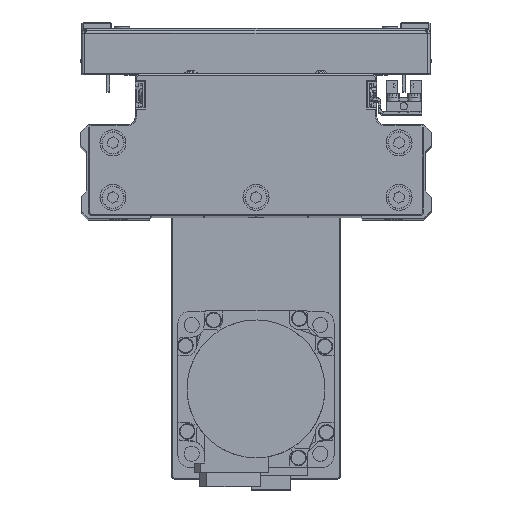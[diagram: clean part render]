
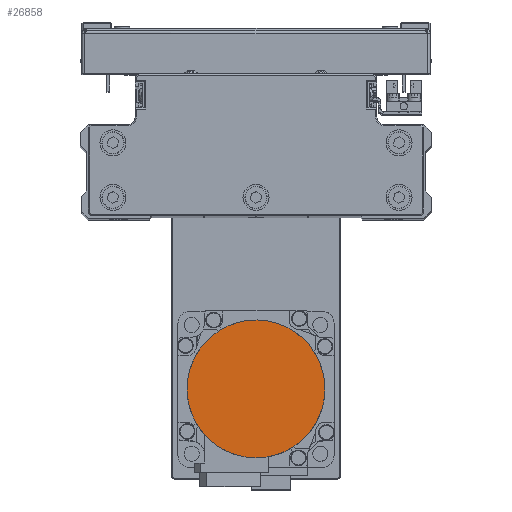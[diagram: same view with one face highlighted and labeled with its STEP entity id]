
A CAD part, top view. The second image highlights one B-rep face of the part: STEP entity #26858.
In plain terms, the highlighted planar face has unit normal (0, 0, 1) as drawn and (0, 0, -1) by its records, which use the part's own axes.
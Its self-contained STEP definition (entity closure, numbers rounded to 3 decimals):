
#95 = AXIS2_PLACEMENT_3D ( 'NONE', #12694, #26082, #39500 ) ;
#412 = VERTEX_POINT ( 'NONE', #4403 ) ;
#682 = CARTESIAN_POINT ( 'NONE',  ( 21.07, 16.165, -109.7 ) ) ;
#909 = CARTESIAN_POINT ( 'NONE',  ( -8.539, 25.147, -109.7 ) ) ;
#1716 = CARTESIAN_POINT ( 'NONE',  ( -26.5, 0., -109.7 ) ) ;
#2832 = CARTESIAN_POINT ( 'NONE',  ( -22.998, -13.28, -109.7 ) ) ;
#3060 = CARTESIAN_POINT ( 'NONE',  ( 6.871, -25.652, -109.7 ) ) ;
#3272 = CARTESIAN_POINT ( 'NONE',  ( 26.5, -1.734, -109.7 ) ) ;
#3967 = CARTESIAN_POINT ( 'NONE',  ( 25.147, 8.539, -109.7 ) ) ;
#4180 = CARTESIAN_POINT ( 'NONE',  ( -1.734, 26.5, -109.7 ) ) ;
#4403 = CARTESIAN_POINT ( 'NONE',  ( -26.5, 0., -109.7 ) ) ;
#4987 = CARTESIAN_POINT ( 'NONE',  ( -25.652, 6.871, -109.7 ) ) ;
#5675 = EDGE_CURVE ( 'NONE', #412, #42727, #29798, .T. ) ;
#6117 = CARTESIAN_POINT ( 'NONE',  ( -25.652, -6.871, -109.7 ) ) ;
#6335 = CARTESIAN_POINT ( 'NONE',  ( -1.734, -26.5, -109.7 ) ) ;
#6563 = CARTESIAN_POINT ( 'NONE',  ( 25.147, -8.539, -109.7 ) ) ;
#7258 = CARTESIAN_POINT ( 'NONE',  ( 26.5, 1.734, -109.7 ) ) ;
#7464 = CARTESIAN_POINT ( 'NONE',  ( 6.871, 25.652, -109.7 ) ) ;
#7683 = CARTESIAN_POINT ( 'NONE',  ( -22.998, 13.28, -109.7 ) ) ;
#9426 = CARTESIAN_POINT ( 'NONE',  ( -26.5, 0., -109.7 ) ) ;
#9626 = CARTESIAN_POINT ( 'NONE',  ( -8.539, -25.147, -109.7 ) ) ;
#9846 = CARTESIAN_POINT ( 'NONE',  ( 21.07, -16.165, -109.7 ) ) ;
#10771 = CARTESIAN_POINT ( 'NONE',  ( 13.28, 22.998, -109.7 ) ) ;
#10981 = CARTESIAN_POINT ( 'NONE',  ( -17.512, 19.965, -109.7 ) ) ;
#11588 = ORIENTED_EDGE ( 'NONE', *, *, #5675, .F. ) ;
#12694 = CARTESIAN_POINT ( 'NONE',  ( 0., 0., -109.7 ) ) ;
#12927 = CARTESIAN_POINT ( 'NONE',  ( -16.165, -21.07, -109.7 ) ) ;
#13144 = CARTESIAN_POINT ( 'NONE',  ( 16.165, -21.07, -109.7 ) ) ;
#13702 = ORIENTED_EDGE ( 'NONE', *, *, #16136, .F. ) ;
#14068 = CARTESIAN_POINT ( 'NONE',  ( 19.965, 17.512, -109.7 ) ) ;
#14297 = CARTESIAN_POINT ( 'NONE',  ( -11.744, 23.819, -109.7 ) ) ;
#16136 = EDGE_CURVE ( 'NONE', #42727, #412, #29342, .T. ) ;
#16215 = CARTESIAN_POINT ( 'NONE',  ( -21.07, -16.165, -109.7 ) ) ;
#16445 = CARTESIAN_POINT ( 'NONE',  ( 8.539, -25.147, -109.7 ) ) ;
#16655 = CARTESIAN_POINT ( 'NONE',  ( 26.5, 0., -109.7 ) ) ;
#17339 = CARTESIAN_POINT ( 'NONE',  ( 23.819, 11.744, -109.7 ) ) ;
#17555 = CARTESIAN_POINT ( 'NONE',  ( -3.469, 26.329, -109.7 ) ) ;
#18368 = CARTESIAN_POINT ( 'NONE',  ( -26.329, 3.469, -109.7 ) ) ;
#19492 = CARTESIAN_POINT ( 'NONE',  ( -25.147, -8.539, -109.7 ) ) ;
#19712 = CARTESIAN_POINT ( 'NONE',  ( 1.734, -26.5, -109.7 ) ) ;
#19939 = CARTESIAN_POINT ( 'NONE',  ( 25.652, -6.871, -109.7 ) ) ;
#20642 = CARTESIAN_POINT ( 'NONE',  ( 26.329, 3.469, -109.7 ) ) ;
#20848 = CARTESIAN_POINT ( 'NONE',  ( 3.469, 26.329, -109.7 ) ) ;
#21065 = CARTESIAN_POINT ( 'NONE',  ( -23.819, 11.744, -109.7 ) ) ;
#22788 = CARTESIAN_POINT ( 'NONE',  ( -26.5, -1.734, -109.7 ) ) ;
#22992 = CARTESIAN_POINT ( 'NONE',  ( -6.871, -25.652, -109.7 ) ) ;
#23216 = CARTESIAN_POINT ( 'NONE',  ( 22.998, -13.28, -109.7 ) ) ;
#24145 = CARTESIAN_POINT ( 'NONE',  ( 11.744, 23.819, -109.7 ) ) ;
#24353 = CARTESIAN_POINT ( 'NONE',  ( -19.965, 17.512, -109.7 ) ) ;
#26082 = DIRECTION ( 'NONE',  ( 0., 0., 1. ) ) ;
#26307 = CARTESIAN_POINT ( 'NONE',  ( -13.28, -22.998, -109.7 ) ) ;
#26511 = CARTESIAN_POINT ( 'NONE',  ( 17.512, -19.965, -109.7 ) ) ;
#26858 = ADVANCED_FACE ( 'NONE', ( #29361 ), #42771, .F. ) ;
#27437 = CARTESIAN_POINT ( 'NONE',  ( 17.512, 19.965, -109.7 ) ) ;
#27661 = CARTESIAN_POINT ( 'NONE',  ( -13.28, 22.998, -109.7 ) ) ;
#29342 = B_SPLINE_CURVE_WITH_KNOTS ( 'NONE', 3,
 ( #37326, #7258, #20642, #34028, #3967, #17339, #30728, #682, #14068, #27437, #40857, #10771, #24145, #37545, #7464, #20848, #34240, #4180, #17555, #30954, #909, #14297, #27661, #41069, #10981, #24353, #37760, #7683, #21065, #35051, #4987, #18368, #31768, #1716 ),
 .UNSPECIFIED., .F., .F.,
 ( 4, 2, 2, 2, 2, 2, 2, 2, 2, 2, 2, 2, 2, 2, 2, 2, 4 ),
 ( 0., 0.062, 0.125, 0.187, 0.25, 0.312, 0.375, 0.437, 0.5, 0.562, 0.625, 0.687, 0.75, 0.813, 0.875, 0.938, 1. ),
 .UNSPECIFIED. ) ;
#29361 = FACE_OUTER_BOUND ( 'NONE', #39979, .T. ) ;
#29600 = CARTESIAN_POINT ( 'NONE',  ( -19.965, -17.512, -109.7 ) ) ;
#29798 = B_SPLINE_CURVE_WITH_KNOTS ( 'NONE', 3,
 ( #9426, #22788, #36188, #6117, #19492, #32889, #2832, #16215, #29600, #43009, #12927, #26307, #39722, #9626, #22992, #36405, #6335, #19712, #33112, #3060, #16445, #29819, #43222, #13144, #26511, #39937, #9846, #23216, #36634, #6563, #19939, #33330, #3272, #16655 ),
 .UNSPECIFIED., .F., .F.,
 ( 4, 2, 2, 2, 2, 2, 2, 2, 2, 2, 2, 2, 2, 2, 2, 2, 4 ),
 ( 0., 0.063, 0.125, 0.188, 0.25, 0.312, 0.375, 0.437, 0.5, 0.562, 0.625, 0.687, 0.75, 0.813, 0.875, 0.938, 1. ),
 .UNSPECIFIED. ) ;
#29819 = CARTESIAN_POINT ( 'NONE',  ( 11.744, -23.819, -109.7 ) ) ;
#30728 = CARTESIAN_POINT ( 'NONE',  ( 22.998, 13.28, -109.7 ) ) ;
#30954 = CARTESIAN_POINT ( 'NONE',  ( -6.871, 25.652, -109.7 ) ) ;
#31768 = CARTESIAN_POINT ( 'NONE',  ( -26.5, 1.734, -109.7 ) ) ;
#32889 = CARTESIAN_POINT ( 'NONE',  ( -23.819, -11.744, -109.7 ) ) ;
#33112 = CARTESIAN_POINT ( 'NONE',  ( 3.469, -26.329, -109.7 ) ) ;
#33330 = CARTESIAN_POINT ( 'NONE',  ( 26.329, -3.469, -109.7 ) ) ;
#34028 = CARTESIAN_POINT ( 'NONE',  ( 25.652, 6.871, -109.7 ) ) ;
#34240 = CARTESIAN_POINT ( 'NONE',  ( 1.734, 26.5, -109.7 ) ) ;
#35051 = CARTESIAN_POINT ( 'NONE',  ( -25.147, 8.539, -109.7 ) ) ;
#36188 = CARTESIAN_POINT ( 'NONE',  ( -26.329, -3.469, -109.7 ) ) ;
#36405 = CARTESIAN_POINT ( 'NONE',  ( -3.469, -26.329, -109.7 ) ) ;
#36634 = CARTESIAN_POINT ( 'NONE',  ( 23.819, -11.744, -109.7 ) ) ;
#37326 = CARTESIAN_POINT ( 'NONE',  ( 26.5, 0., -109.7 ) ) ;
#37545 = CARTESIAN_POINT ( 'NONE',  ( 8.539, 25.147, -109.7 ) ) ;
#37760 = CARTESIAN_POINT ( 'NONE',  ( -21.07, 16.165, -109.7 ) ) ;
#37888 = CARTESIAN_POINT ( 'NONE',  ( 26.5, 0., -109.7 ) ) ;
#39500 = DIRECTION ( 'NONE',  ( 1., 0., 0. ) ) ;
#39722 = CARTESIAN_POINT ( 'NONE',  ( -11.744, -23.819, -109.7 ) ) ;
#39937 = CARTESIAN_POINT ( 'NONE',  ( 19.965, -17.512, -109.7 ) ) ;
#39979 = EDGE_LOOP ( 'NONE', ( #13702, #11588 ) ) ;
#40857 = CARTESIAN_POINT ( 'NONE',  ( 16.165, 21.07, -109.7 ) ) ;
#41069 = CARTESIAN_POINT ( 'NONE',  ( -16.165, 21.07, -109.7 ) ) ;
#42727 = VERTEX_POINT ( 'NONE', #37888 ) ;
#42771 = PLANE ( 'NONE',  #95 ) ;
#43009 = CARTESIAN_POINT ( 'NONE',  ( -17.512, -19.965, -109.7 ) ) ;
#43222 = CARTESIAN_POINT ( 'NONE',  ( 13.28, -22.998, -109.7 ) ) ;
